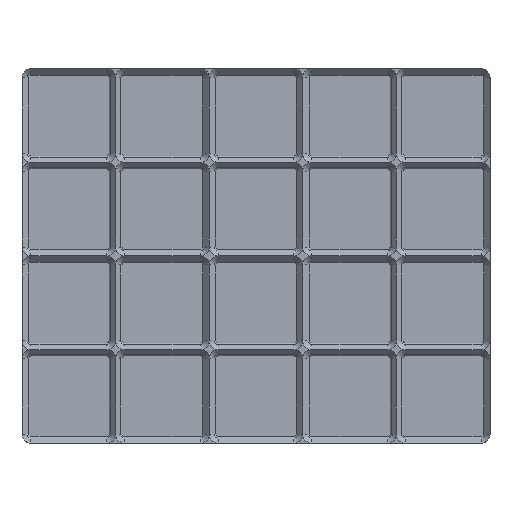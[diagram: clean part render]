
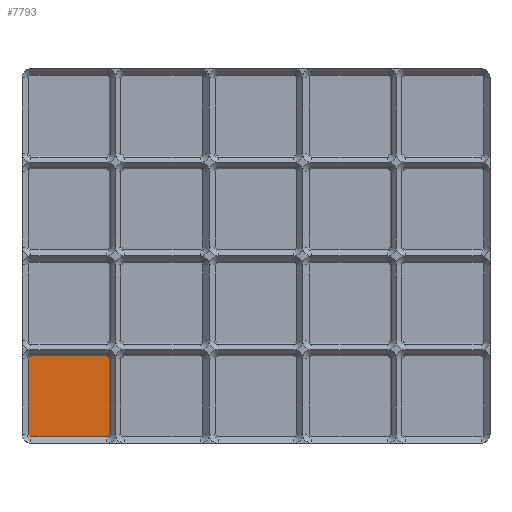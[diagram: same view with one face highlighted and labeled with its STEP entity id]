
A CAD part, top view. The second image highlights one B-rep face of the part: STEP entity #7793.
In plain terms, the highlighted planar face has unit normal (0, 0, 1).
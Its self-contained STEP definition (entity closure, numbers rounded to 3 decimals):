
#2071 = PLANE('',#2072);
#2072 = AXIS2_PLACEMENT_3D('',#2073,#2074,#2075);
#2073 = CARTESIAN_POINT('',(2.15,21.,2.7));
#2074 = DIRECTION('',(-0.707,0.,-0.707));
#2075 = DIRECTION('',(0.,-1.,-0.));
#3263 = CONICAL_SURFACE('',#3264,1.15,0.785);
#3264 = AXIS2_PLACEMENT_3D('',#3265,#3266,#3267);
#3265 = CARTESIAN_POINT('',(4.,4.,2.));
#3266 = DIRECTION('',(-0.,-0.,1.));
#3267 = DIRECTION('',(-1.,0.,0.));
#4447 = EDGE_CURVE('',#4448,#4450,#4452,.T.);
#4448 = VERTEX_POINT('',#4449);
#4449 = CARTESIAN_POINT('',(2.85,4.,2.));
#4450 = VERTEX_POINT('',#4451);
#4451 = CARTESIAN_POINT('',(2.85,38.,2.));
#4452 = SURFACE_CURVE('',#4453,(#4457,#4464),.PCURVE_S1.);
#4453 = LINE('',#4454,#4455);
#4454 = CARTESIAN_POINT('',(2.85,21.,2.));
#4455 = VECTOR('',#4456,1.);
#4456 = DIRECTION('',(0.,1.,0.));
#4457 = PCURVE('',#2071,#4458);
#4458 = DEFINITIONAL_REPRESENTATION('',(#4459),#4463);
#4459 = LINE('',#4460,#4461);
#4460 = CARTESIAN_POINT('',(0.,-0.99));
#4461 = VECTOR('',#4462,1.);
#4462 = DIRECTION('',(-1.,0.));
#4463 = ( GEOMETRIC_REPRESENTATION_CONTEXT(2) 
PARAMETRIC_REPRESENTATION_CONTEXT() REPRESENTATION_CONTEXT('2D SPACE',''
  ) );
#4464 = PCURVE('',#4465,#4470);
#4465 = PLANE('',#4466);
#4466 = AXIS2_PLACEMENT_3D('',#4467,#4468,#4469);
#4467 = CARTESIAN_POINT('',(4.,4.,2.));
#4468 = DIRECTION('',(0.,0.,-1.));
#4469 = DIRECTION('',(-1.,0.,0.));
#4470 = DEFINITIONAL_REPRESENTATION('',(#4471),#4475);
#4471 = LINE('',#4472,#4473);
#4472 = CARTESIAN_POINT('',(1.15,17.));
#4473 = VECTOR('',#4474,1.);
#4474 = DIRECTION('',(0.,1.));
#4475 = ( GEOMETRIC_REPRESENTATION_CONTEXT(2) 
PARAMETRIC_REPRESENTATION_CONTEXT() REPRESENTATION_CONTEXT('2D SPACE',''
  ) );
#4508 = CONICAL_SURFACE('',#4509,1.15,0.785);
#4509 = AXIS2_PLACEMENT_3D('',#4510,#4511,#4512);
#4510 = CARTESIAN_POINT('',(4.,38.,2.));
#4511 = DIRECTION('',(-0.,-0.,1.));
#4512 = DIRECTION('',(-1.,0.,0.));
#5457 = PLANE('',#5458);
#5458 = AXIS2_PLACEMENT_3D('',#5459,#5460,#5461);
#5459 = CARTESIAN_POINT('',(21.,2.15,2.7));
#5460 = DIRECTION('',(0.,-0.707,-0.707));
#5461 = DIRECTION('',(1.,0.,0.));
#6228 = EDGE_CURVE('',#6229,#4448,#6231,.T.);
#6229 = VERTEX_POINT('',#6230);
#6230 = CARTESIAN_POINT('',(4.,2.85,2.));
#6231 = SURFACE_CURVE('',#6232,(#6237,#6244),.PCURVE_S1.);
#6232 = CIRCLE('',#6233,1.15);
#6233 = AXIS2_PLACEMENT_3D('',#6234,#6235,#6236);
#6234 = CARTESIAN_POINT('',(4.,4.,2.));
#6235 = DIRECTION('',(0.,0.,-1.));
#6236 = DIRECTION('',(-1.,0.,0.));
#6237 = PCURVE('',#3263,#6238);
#6238 = DEFINITIONAL_REPRESENTATION('',(#6239),#6243);
#6239 = LINE('',#6240,#6241);
#6240 = CARTESIAN_POINT('',(6.283,0.));
#6241 = VECTOR('',#6242,1.);
#6242 = DIRECTION('',(-1.,0.));
#6243 = ( GEOMETRIC_REPRESENTATION_CONTEXT(2) 
PARAMETRIC_REPRESENTATION_CONTEXT() REPRESENTATION_CONTEXT('2D SPACE',''
  ) );
#6244 = PCURVE('',#4465,#6245);
#6245 = DEFINITIONAL_REPRESENTATION('',(#6246),#6250);
#6246 = CIRCLE('',#6247,1.15);
#6247 = AXIS2_PLACEMENT_2D('',#6248,#6249);
#6248 = CARTESIAN_POINT('',(0.,0.));
#6249 = DIRECTION('',(1.,0.));
#6250 = ( GEOMETRIC_REPRESENTATION_CONTEXT(2) 
PARAMETRIC_REPRESENTATION_CONTEXT() REPRESENTATION_CONTEXT('2D SPACE',''
  ) );
#7793 = ADVANCED_FACE('',(#7794),#4465,.F.);
#7794 = FACE_BOUND('',#7795,.T.);
#7795 = EDGE_LOOP('',(#7796,#7797,#7798,#7821,#7850,#7878,#7907,#7935));
#7796 = ORIENTED_EDGE('',*,*,#4447,.F.);
#7797 = ORIENTED_EDGE('',*,*,#6228,.F.);
#7798 = ORIENTED_EDGE('',*,*,#7799,.T.);
#7799 = EDGE_CURVE('',#6229,#7800,#7802,.T.);
#7800 = VERTEX_POINT('',#7801);
#7801 = CARTESIAN_POINT('',(38.,2.85,2.));
#7802 = SURFACE_CURVE('',#7803,(#7807,#7814),.PCURVE_S1.);
#7803 = LINE('',#7804,#7805);
#7804 = CARTESIAN_POINT('',(21.,2.85,2.));
#7805 = VECTOR('',#7806,1.);
#7806 = DIRECTION('',(1.,0.,0.));
#7807 = PCURVE('',#4465,#7808);
#7808 = DEFINITIONAL_REPRESENTATION('',(#7809),#7813);
#7809 = LINE('',#7810,#7811);
#7810 = CARTESIAN_POINT('',(-17.,-1.15));
#7811 = VECTOR('',#7812,1.);
#7812 = DIRECTION('',(-1.,0.));
#7813 = ( GEOMETRIC_REPRESENTATION_CONTEXT(2) 
PARAMETRIC_REPRESENTATION_CONTEXT() REPRESENTATION_CONTEXT('2D SPACE',''
  ) );
#7814 = PCURVE('',#5457,#7815);
#7815 = DEFINITIONAL_REPRESENTATION('',(#7816),#7820);
#7816 = LINE('',#7817,#7818);
#7817 = CARTESIAN_POINT('',(0.,-0.99));
#7818 = VECTOR('',#7819,1.);
#7819 = DIRECTION('',(1.,0.));
#7820 = ( GEOMETRIC_REPRESENTATION_CONTEXT(2) 
PARAMETRIC_REPRESENTATION_CONTEXT() REPRESENTATION_CONTEXT('2D SPACE',''
  ) );
#7821 = ORIENTED_EDGE('',*,*,#7822,.F.);
#7822 = EDGE_CURVE('',#7823,#7800,#7825,.T.);
#7823 = VERTEX_POINT('',#7824);
#7824 = CARTESIAN_POINT('',(39.15,4.,2.));
#7825 = SURFACE_CURVE('',#7826,(#7831,#7838),.PCURVE_S1.);
#7826 = CIRCLE('',#7827,1.15);
#7827 = AXIS2_PLACEMENT_3D('',#7828,#7829,#7830);
#7828 = CARTESIAN_POINT('',(38.,4.,2.));
#7829 = DIRECTION('',(0.,0.,-1.));
#7830 = DIRECTION('',(-1.,0.,0.));
#7831 = PCURVE('',#4465,#7832);
#7832 = DEFINITIONAL_REPRESENTATION('',(#7833),#7837);
#7833 = CIRCLE('',#7834,1.15);
#7834 = AXIS2_PLACEMENT_2D('',#7835,#7836);
#7835 = CARTESIAN_POINT('',(-34.,0.));
#7836 = DIRECTION('',(1.,0.));
#7837 = ( GEOMETRIC_REPRESENTATION_CONTEXT(2) 
PARAMETRIC_REPRESENTATION_CONTEXT() REPRESENTATION_CONTEXT('2D SPACE',''
  ) );
#7838 = PCURVE('',#7839,#7844);
#7839 = CONICAL_SURFACE('',#7840,1.15,0.785);
#7840 = AXIS2_PLACEMENT_3D('',#7841,#7842,#7843);
#7841 = CARTESIAN_POINT('',(38.,4.,2.));
#7842 = DIRECTION('',(-0.,-0.,1.));
#7843 = DIRECTION('',(-1.,0.,0.));
#7844 = DEFINITIONAL_REPRESENTATION('',(#7845),#7849);
#7845 = LINE('',#7846,#7847);
#7846 = CARTESIAN_POINT('',(6.283,0.));
#7847 = VECTOR('',#7848,1.);
#7848 = DIRECTION('',(-1.,0.));
#7849 = ( GEOMETRIC_REPRESENTATION_CONTEXT(2) 
PARAMETRIC_REPRESENTATION_CONTEXT() REPRESENTATION_CONTEXT('2D SPACE',''
  ) );
#7850 = ORIENTED_EDGE('',*,*,#7851,.T.);
#7851 = EDGE_CURVE('',#7823,#7852,#7854,.T.);
#7852 = VERTEX_POINT('',#7853);
#7853 = CARTESIAN_POINT('',(39.15,38.,2.));
#7854 = SURFACE_CURVE('',#7855,(#7859,#7866),.PCURVE_S1.);
#7855 = LINE('',#7856,#7857);
#7856 = CARTESIAN_POINT('',(39.15,21.,2.));
#7857 = VECTOR('',#7858,1.);
#7858 = DIRECTION('',(0.,1.,0.));
#7859 = PCURVE('',#4465,#7860);
#7860 = DEFINITIONAL_REPRESENTATION('',(#7861),#7865);
#7861 = LINE('',#7862,#7863);
#7862 = CARTESIAN_POINT('',(-35.15,17.));
#7863 = VECTOR('',#7864,1.);
#7864 = DIRECTION('',(0.,1.));
#7865 = ( GEOMETRIC_REPRESENTATION_CONTEXT(2) 
PARAMETRIC_REPRESENTATION_CONTEXT() REPRESENTATION_CONTEXT('2D SPACE',''
  ) );
#7866 = PCURVE('',#7867,#7872);
#7867 = PLANE('',#7868);
#7868 = AXIS2_PLACEMENT_3D('',#7869,#7870,#7871);
#7869 = CARTESIAN_POINT('',(39.85,21.,2.7));
#7870 = DIRECTION('',(0.707,0.,-0.707));
#7871 = DIRECTION('',(0.,1.,0.));
#7872 = DEFINITIONAL_REPRESENTATION('',(#7873),#7877);
#7873 = LINE('',#7874,#7875);
#7874 = CARTESIAN_POINT('',(0.,-0.99));
#7875 = VECTOR('',#7876,1.);
#7876 = DIRECTION('',(1.,0.));
#7877 = ( GEOMETRIC_REPRESENTATION_CONTEXT(2) 
PARAMETRIC_REPRESENTATION_CONTEXT() REPRESENTATION_CONTEXT('2D SPACE',''
  ) );
#7878 = ORIENTED_EDGE('',*,*,#7879,.F.);
#7879 = EDGE_CURVE('',#7880,#7852,#7882,.T.);
#7880 = VERTEX_POINT('',#7881);
#7881 = CARTESIAN_POINT('',(38.,39.15,2.));
#7882 = SURFACE_CURVE('',#7883,(#7888,#7895),.PCURVE_S1.);
#7883 = CIRCLE('',#7884,1.15);
#7884 = AXIS2_PLACEMENT_3D('',#7885,#7886,#7887);
#7885 = CARTESIAN_POINT('',(38.,38.,2.));
#7886 = DIRECTION('',(0.,0.,-1.));
#7887 = DIRECTION('',(-1.,0.,0.));
#7888 = PCURVE('',#4465,#7889);
#7889 = DEFINITIONAL_REPRESENTATION('',(#7890),#7894);
#7890 = CIRCLE('',#7891,1.15);
#7891 = AXIS2_PLACEMENT_2D('',#7892,#7893);
#7892 = CARTESIAN_POINT('',(-34.,34.));
#7893 = DIRECTION('',(1.,0.));
#7894 = ( GEOMETRIC_REPRESENTATION_CONTEXT(2) 
PARAMETRIC_REPRESENTATION_CONTEXT() REPRESENTATION_CONTEXT('2D SPACE',''
  ) );
#7895 = PCURVE('',#7896,#7901);
#7896 = CONICAL_SURFACE('',#7897,1.15,0.785);
#7897 = AXIS2_PLACEMENT_3D('',#7898,#7899,#7900);
#7898 = CARTESIAN_POINT('',(38.,38.,2.));
#7899 = DIRECTION('',(-0.,-0.,1.));
#7900 = DIRECTION('',(-1.,0.,0.));
#7901 = DEFINITIONAL_REPRESENTATION('',(#7902),#7906);
#7902 = LINE('',#7903,#7904);
#7903 = CARTESIAN_POINT('',(6.283,0.));
#7904 = VECTOR('',#7905,1.);
#7905 = DIRECTION('',(-1.,0.));
#7906 = ( GEOMETRIC_REPRESENTATION_CONTEXT(2) 
PARAMETRIC_REPRESENTATION_CONTEXT() REPRESENTATION_CONTEXT('2D SPACE',''
  ) );
#7907 = ORIENTED_EDGE('',*,*,#7908,.F.);
#7908 = EDGE_CURVE('',#7909,#7880,#7911,.T.);
#7909 = VERTEX_POINT('',#7910);
#7910 = CARTESIAN_POINT('',(4.,39.15,2.));
#7911 = SURFACE_CURVE('',#7912,(#7916,#7923),.PCURVE_S1.);
#7912 = LINE('',#7913,#7914);
#7913 = CARTESIAN_POINT('',(21.,39.15,2.));
#7914 = VECTOR('',#7915,1.);
#7915 = DIRECTION('',(1.,0.,0.));
#7916 = PCURVE('',#4465,#7917);
#7917 = DEFINITIONAL_REPRESENTATION('',(#7918),#7922);
#7918 = LINE('',#7919,#7920);
#7919 = CARTESIAN_POINT('',(-17.,35.15));
#7920 = VECTOR('',#7921,1.);
#7921 = DIRECTION('',(-1.,0.));
#7922 = ( GEOMETRIC_REPRESENTATION_CONTEXT(2) 
PARAMETRIC_REPRESENTATION_CONTEXT() REPRESENTATION_CONTEXT('2D SPACE',''
  ) );
#7923 = PCURVE('',#7924,#7929);
#7924 = PLANE('',#7925);
#7925 = AXIS2_PLACEMENT_3D('',#7926,#7927,#7928);
#7926 = CARTESIAN_POINT('',(21.,39.85,2.7));
#7927 = DIRECTION('',(0.,0.707,-0.707));
#7928 = DIRECTION('',(-1.,0.,-0.));
#7929 = DEFINITIONAL_REPRESENTATION('',(#7930),#7934);
#7930 = LINE('',#7931,#7932);
#7931 = CARTESIAN_POINT('',(0.,-0.99));
#7932 = VECTOR('',#7933,1.);
#7933 = DIRECTION('',(-1.,0.));
#7934 = ( GEOMETRIC_REPRESENTATION_CONTEXT(2) 
PARAMETRIC_REPRESENTATION_CONTEXT() REPRESENTATION_CONTEXT('2D SPACE',''
  ) );
#7935 = ORIENTED_EDGE('',*,*,#7936,.F.);
#7936 = EDGE_CURVE('',#4450,#7909,#7937,.T.);
#7937 = SURFACE_CURVE('',#7938,(#7943,#7950),.PCURVE_S1.);
#7938 = CIRCLE('',#7939,1.15);
#7939 = AXIS2_PLACEMENT_3D('',#7940,#7941,#7942);
#7940 = CARTESIAN_POINT('',(4.,38.,2.));
#7941 = DIRECTION('',(0.,0.,-1.));
#7942 = DIRECTION('',(-1.,0.,0.));
#7943 = PCURVE('',#4465,#7944);
#7944 = DEFINITIONAL_REPRESENTATION('',(#7945),#7949);
#7945 = CIRCLE('',#7946,1.15);
#7946 = AXIS2_PLACEMENT_2D('',#7947,#7948);
#7947 = CARTESIAN_POINT('',(0.,34.));
#7948 = DIRECTION('',(1.,0.));
#7949 = ( GEOMETRIC_REPRESENTATION_CONTEXT(2) 
PARAMETRIC_REPRESENTATION_CONTEXT() REPRESENTATION_CONTEXT('2D SPACE',''
  ) );
#7950 = PCURVE('',#4508,#7951);
#7951 = DEFINITIONAL_REPRESENTATION('',(#7952),#7956);
#7952 = LINE('',#7953,#7954);
#7953 = CARTESIAN_POINT('',(6.283,0.));
#7954 = VECTOR('',#7955,1.);
#7955 = DIRECTION('',(-1.,0.));
#7956 = ( GEOMETRIC_REPRESENTATION_CONTEXT(2) 
PARAMETRIC_REPRESENTATION_CONTEXT() REPRESENTATION_CONTEXT('2D SPACE',''
  ) );
